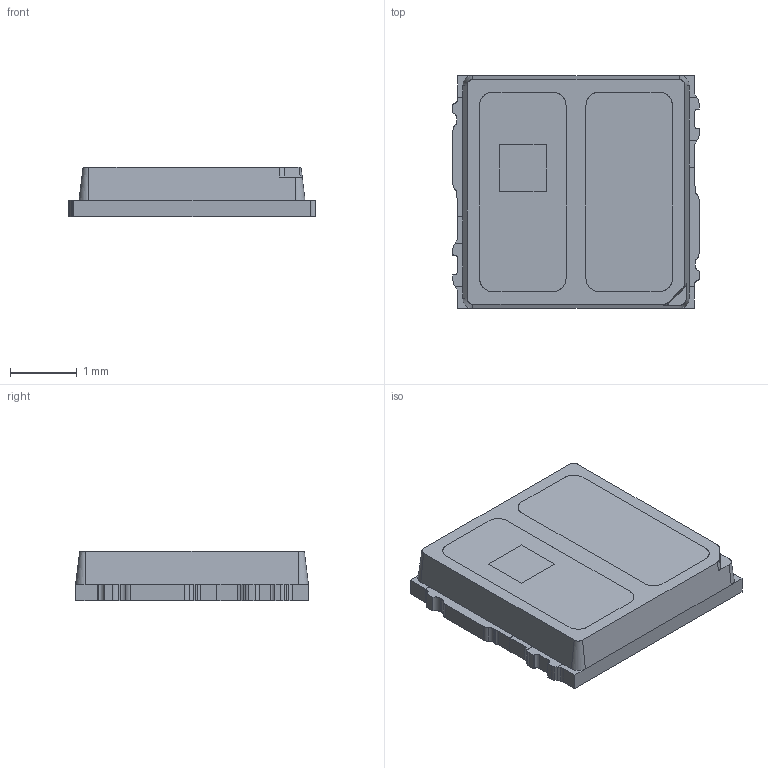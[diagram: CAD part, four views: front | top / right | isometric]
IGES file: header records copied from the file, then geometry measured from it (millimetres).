
Start section: SolidWorks IGES file using analytic representation for surfaces
Global section: file name: C:\Users\user\Desktop\XYY\1-车灯产品3D图汇总\Bi-color-OK\LAWD-BA-OK\LAWD-BA.IGS; native system: SolidWorks 2022; preprocessor: SolidWorks 2022; author: user; date: 250424.082212; units: millimetre
Bounding box: 3.7 x 3.5 x 0.75 mm (x, y, z)
Surface area: 62 mm2 (no closed solid volume)
Topology: 0 solids, 0 shells, 281 faces, 2644 edges, 3428 vertices
Faces by surface type: bspline 199, revolution 82
